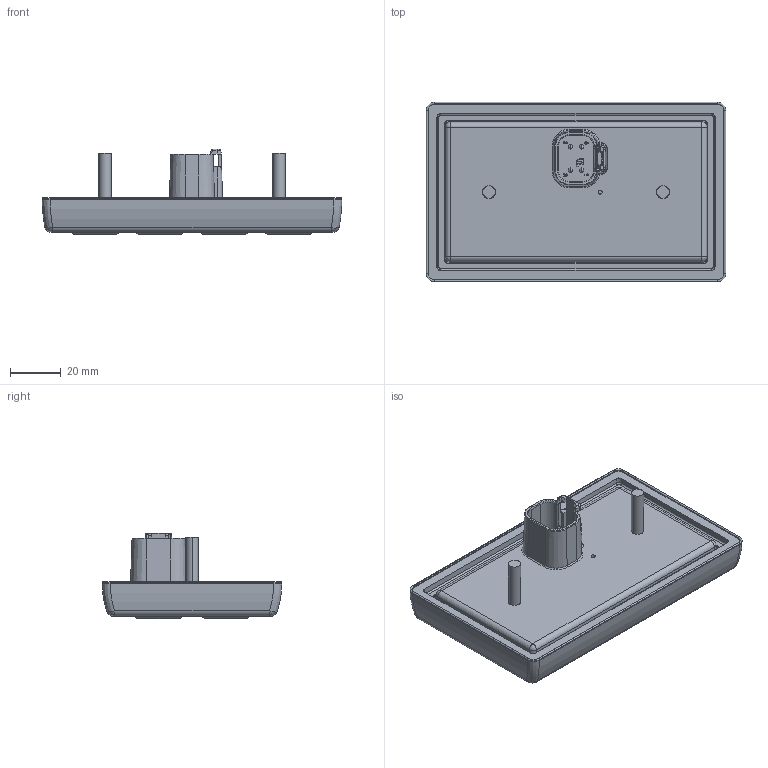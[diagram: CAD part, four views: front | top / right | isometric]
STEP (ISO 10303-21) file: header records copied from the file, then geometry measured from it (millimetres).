
FILE_DESCRIPTION (( 'STEP AP214' ), '1' );
FILE_NAME ('CL610_SINGLE CONNECTOR.STEP', '2019-11-07T16:05:17', ( '' ), ( '' ), 'SwSTEP 2.0', 'SolidWorks 2019', '' );
FILE_SCHEMA (( 'AUTOMOTIVE_DESIGN' ));
Length unit declared in the file: inch
Products named in the file (6): 175-45-635; CL610_SINGLE CONNECTOR; CL-610-510; 415-11-618; 186-09-601
Assembly tree (9 placements, depth 3):
  CL610_SINGLE CONNECTOR
    CL-610-510
      CL-610-510
      415-11-618  x2
      175-45-635  x4
    186-09-601
Bounding box: 118.11 x 70.74 x 33.73 mm (x, y, z)
Volume: 59360.1 mm3; surface area: 52512.1 mm2
Topology: 8 solids, 8 shells, 1667 faces, 4040 edges, 2575 vertices
Faces by surface type: plane 789, cylinder 449, cone 189, torus 89, bspline 87, sphere 64
Entity records: 46485 total; most frequent: CARTESIAN_POINT 10890, DIRECTION 7506, ORIENTED_EDGE 7224, EDGE_CURVE 3612, AXIS2_PLACEMENT_3D 2714, VERTEX_POINT 2294, LINE 2078, VECTOR 2078
